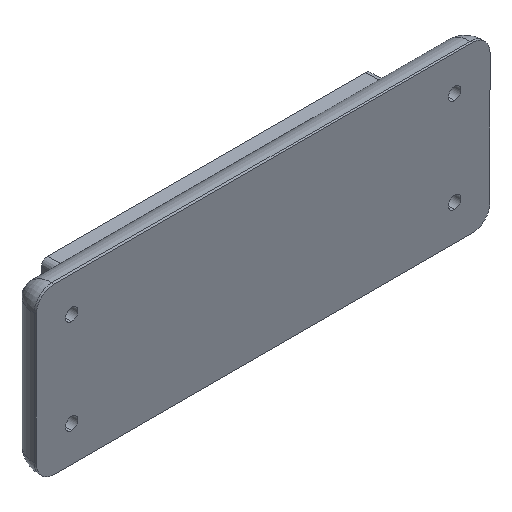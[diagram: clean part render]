
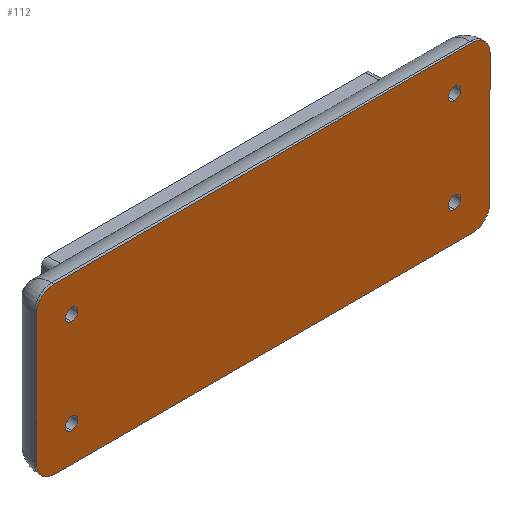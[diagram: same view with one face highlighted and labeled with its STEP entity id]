
A CAD part, isometric view. The second image highlights one B-rep face of the part: STEP entity #112.
In plain terms, the highlighted planar face has unit normal (0, -1, 0).
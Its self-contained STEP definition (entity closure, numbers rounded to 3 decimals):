
#8 = CARTESIAN_POINT ( 'NONE',  ( 65., -1.75, 18.1 ) ) ;
#12 = EDGE_CURVE ( 'NONE', #74, #975, #1131, .T. ) ;
#17 = EDGE_CURVE ( 'NONE', #667, #337, #895, .T. ) ;
#21 = CARTESIAN_POINT ( 'NONE',  ( 71., -1.75, 22. ) ) ;
#24 = CARTESIAN_POINT ( 'NONE',  ( 65., -1.75, -18.1 ) ) ;
#40 = VECTOR ( 'NONE', #328, 1000. ) ;
#44 = CIRCLE ( 'NONE', #551, 2.1 ) ;
#57 = ORIENTED_EDGE ( 'NONE', *, *, #1347, .F. ) ;
#59 = DIRECTION ( 'NONE',  ( 0., -1., 0. ) ) ;
#73 = AXIS2_PLACEMENT_3D ( 'NONE', #258, #316, #357 ) ;
#74 = VERTEX_POINT ( 'NONE', #24 ) ;
#88 = VERTEX_POINT ( 'NONE', #8 ) ;
#98 = VERTEX_POINT ( 'NONE', #1248 ) ;
#109 = AXIS2_PLACEMENT_3D ( 'NONE', #962, #641, #482 ) ;
#112 = ADVANCED_FACE ( 'NONE', ( #521, #937, #1355, #180, #1124 ), #604, .F. ) ;
#119 = EDGE_CURVE ( 'NONE', #543, #827, #1036, .T. ) ;
#128 = CARTESIAN_POINT ( 'NONE',  ( 65., -1.75, 16. ) ) ;
#131 = DIRECTION ( 'NONE',  ( 0., -1., 0. ) ) ;
#137 = DIRECTION ( 'NONE',  ( 0., 0., -1. ) ) ;
#146 = CARTESIAN_POINT ( 'NONE',  ( 71., -1.75, 26. ) ) ;
#156 = ORIENTED_EDGE ( 'NONE', *, *, #17, .F. ) ;
#161 = AXIS2_PLACEMENT_3D ( 'NONE', #1121, #1290, #251 ) ;
#180 = FACE_BOUND ( 'NONE', #387, .T. ) ;
#186 = CARTESIAN_POINT ( 'NONE',  ( -77., -1.75, -22. ) ) ;
#198 = AXIS2_PLACEMENT_3D ( 'NONE', #1080, #831, #1066 ) ;
#206 = VERTEX_POINT ( 'NONE', #475 ) ;
#208 = EDGE_CURVE ( 'NONE', #639, #206, #847, .T. ) ;
#209 = DIRECTION ( 'NONE',  ( 0., 0., -1. ) ) ;
#210 = LINE ( 'NONE', #1236, #270 ) ;
#212 = CARTESIAN_POINT ( 'NONE',  ( -65., -1.75, -18.1 ) ) ;
#221 = EDGE_CURVE ( 'NONE', #337, #667, #516, .T. ) ;
#234 = VERTEX_POINT ( 'NONE', #1264 ) ;
#246 = VERTEX_POINT ( 'NONE', #903 ) ;
#251 = DIRECTION ( 'NONE',  ( 0., 0., -1. ) ) ;
#255 = AXIS2_PLACEMENT_3D ( 'NONE', #128, #1058, #1302 ) ;
#257 = DIRECTION ( 'NONE',  ( 0., 1., 0. ) ) ;
#258 = CARTESIAN_POINT ( 'NONE',  ( -71., -1.75, 22. ) ) ;
#260 = CARTESIAN_POINT ( 'NONE',  ( -71., -1.75, -22. ) ) ;
#270 = VECTOR ( 'NONE', #600, 1000. ) ;
#281 = EDGE_LOOP ( 'NONE', ( #1241, #719 ) ) ;
#288 = CARTESIAN_POINT ( 'NONE',  ( -65., -1.75, 16. ) ) ;
#294 = DIRECTION ( 'NONE',  ( 0., -1., 0. ) ) ;
#302 = CARTESIAN_POINT ( 'NONE',  ( -71., -1.75, -28. ) ) ;
#316 = DIRECTION ( 'NONE',  ( 0., -1., 0. ) ) ;
#328 = DIRECTION ( 'NONE',  ( 0., 0., 1. ) ) ;
#329 = CARTESIAN_POINT ( 'NONE',  ( 71., -1.75, 28. ) ) ;
#337 = VERTEX_POINT ( 'NONE', #1078 ) ;
#357 = DIRECTION ( 'NONE',  ( 0., 0., -1. ) ) ;
#364 = ORIENTED_EDGE ( 'NONE', *, *, #728, .T. ) ;
#387 = EDGE_LOOP ( 'NONE', ( #156, #851 ) ) ;
#391 = CARTESIAN_POINT ( 'NONE',  ( 65., -1.75, -13.9 ) ) ;
#398 = EDGE_CURVE ( 'NONE', #88, #98, #1312, .T. ) ;
#405 = DIRECTION ( 'NONE',  ( 1., 0., 0. ) ) ;
#416 = DIRECTION ( 'NONE',  ( -1., 0., 0. ) ) ;
#428 = EDGE_LOOP ( 'NONE', ( #931, #549, #1108, #364, #484, #1014, #1089, #764 ) ) ;
#441 = LINE ( 'NONE', #302, #1360 ) ;
#454 = CIRCLE ( 'NONE', #161, 2.1 ) ;
#471 = EDGE_LOOP ( 'NONE', ( #663, #57 ) ) ;
#472 = CARTESIAN_POINT ( 'NONE',  ( -65., -1.75, 16. ) ) ;
#475 = CARTESIAN_POINT ( 'NONE',  ( 77., -1.75, 22. ) ) ;
#482 = DIRECTION ( 'NONE',  ( 0., 0., -1. ) ) ;
#484 = ORIENTED_EDGE ( 'NONE', *, *, #119, .T. ) ;
#491 = EDGE_CURVE ( 'NONE', #827, #1256, #441, .T. ) ;
#498 = EDGE_CURVE ( 'NONE', #975, #74, #44, .T. ) ;
#516 = CIRCLE ( 'NONE', #530, 2.1 ) ;
#521 = FACE_BOUND ( 'NONE', #281, .T. ) ;
#522 = DIRECTION ( 'NONE',  ( 0., 0., -1. ) ) ;
#530 = AXIS2_PLACEMENT_3D ( 'NONE', #577, #1295, #1324 ) ;
#543 = VERTEX_POINT ( 'NONE', #186 ) ;
#549 = ORIENTED_EDGE ( 'NONE', *, *, #750, .T. ) ;
#551 = AXIS2_PLACEMENT_3D ( 'NONE', #1329, #294, #522 ) ;
#577 = CARTESIAN_POINT ( 'NONE',  ( -65., -1.75, -16. ) ) ;
#588 = CIRCLE ( 'NONE', #73, 6. ) ;
#595 = CARTESIAN_POINT ( 'NONE',  ( -71., -1.75, -28. ) ) ;
#600 = DIRECTION ( 'NONE',  ( 0., 0., -1. ) ) ;
#604 = PLANE ( 'NONE',  #941 ) ;
#628 = EDGE_CURVE ( 'NONE', #234, #646, #588, .T. ) ;
#639 = VERTEX_POINT ( 'NONE', #644 ) ;
#641 = DIRECTION ( 'NONE',  ( 0., -1., 0. ) ) ;
#644 = CARTESIAN_POINT ( 'NONE',  ( 77., -1.75, -22. ) ) ;
#646 = VERTEX_POINT ( 'NONE', #1315 ) ;
#650 = CIRCLE ( 'NONE', #1344, 2.1 ) ;
#663 = ORIENTED_EDGE ( 'NONE', *, *, #1354, .F. ) ;
#667 = VERTEX_POINT ( 'NONE', #212 ) ;
#693 = VECTOR ( 'NONE', #416, 1000. ) ;
#719 = ORIENTED_EDGE ( 'NONE', *, *, #498, .F. ) ;
#728 = EDGE_CURVE ( 'NONE', #646, #543, #210, .T. ) ;
#750 = EDGE_CURVE ( 'NONE', #753, #234, #846, .T. ) ;
#753 = VERTEX_POINT ( 'NONE', #329 ) ;
#761 = CIRCLE ( 'NONE', #946, 2.1 ) ;
#764 = ORIENTED_EDGE ( 'NONE', *, *, #208, .T. ) ;
#792 = EDGE_CURVE ( 'NONE', #206, #753, #862, .T. ) ;
#798 = EDGE_CURVE ( 'NONE', #1256, #639, #1169, .T. ) ;
#814 = DIRECTION ( 'NONE',  ( 0., -1., 0. ) ) ;
#820 = DIRECTION ( 'NONE',  ( 0., 0., 1. ) ) ;
#827 = VERTEX_POINT ( 'NONE', #595 ) ;
#831 = DIRECTION ( 'NONE',  ( 0., -1., 0. ) ) ;
#846 = LINE ( 'NONE', #956, #693 ) ;
#847 = LINE ( 'NONE', #917, #40 ) ;
#851 = ORIENTED_EDGE ( 'NONE', *, *, #221, .F. ) ;
#862 = CIRCLE ( 'NONE', #1267, 6. ) ;
#895 = CIRCLE ( 'NONE', #1342, 2.1 ) ;
#903 = CARTESIAN_POINT ( 'NONE',  ( -65., -1.75, 18.1 ) ) ;
#917 = CARTESIAN_POINT ( 'NONE',  ( 77., -1.75, -22. ) ) ;
#931 = ORIENTED_EDGE ( 'NONE', *, *, #792, .T. ) ;
#937 = FACE_BOUND ( 'NONE', #1052, .T. ) ;
#941 = AXIS2_PLACEMENT_3D ( 'NONE', #146, #257, #820 ) ;
#946 = AXIS2_PLACEMENT_3D ( 'NONE', #472, #814, #1176 ) ;
#949 = ORIENTED_EDGE ( 'NONE', *, *, #398, .F. ) ;
#956 = CARTESIAN_POINT ( 'NONE',  ( 71., -1.75, 28. ) ) ;
#962 = CARTESIAN_POINT ( 'NONE',  ( 71., -1.75, -22. ) ) ;
#975 = VERTEX_POINT ( 'NONE', #391 ) ;
#1014 = ORIENTED_EDGE ( 'NONE', *, *, #491, .T. ) ;
#1024 = AXIS2_PLACEMENT_3D ( 'NONE', #260, #131, #137 ) ;
#1036 = CIRCLE ( 'NONE', #1024, 6. ) ;
#1045 = VERTEX_POINT ( 'NONE', #1105 ) ;
#1052 = EDGE_LOOP ( 'NONE', ( #1284, #949 ) ) ;
#1058 = DIRECTION ( 'NONE',  ( 0., -1., 0. ) ) ;
#1066 = DIRECTION ( 'NONE',  ( 0., 0., -1. ) ) ;
#1078 = CARTESIAN_POINT ( 'NONE',  ( -65., -1.75, -13.9 ) ) ;
#1080 = CARTESIAN_POINT ( 'NONE',  ( 65., -1.75, -16. ) ) ;
#1089 = ORIENTED_EDGE ( 'NONE', *, *, #798, .T. ) ;
#1093 = EDGE_CURVE ( 'NONE', #98, #88, #454, .T. ) ;
#1094 = DIRECTION ( 'NONE',  ( 0., 0., -1. ) ) ;
#1105 = CARTESIAN_POINT ( 'NONE',  ( -65., -1.75, 13.9 ) ) ;
#1108 = ORIENTED_EDGE ( 'NONE', *, *, #628, .T. ) ;
#1121 = CARTESIAN_POINT ( 'NONE',  ( 65., -1.75, 16. ) ) ;
#1124 = FACE_OUTER_BOUND ( 'NONE', #428, .T. ) ;
#1131 = CIRCLE ( 'NONE', #198, 2.1 ) ;
#1167 = DIRECTION ( 'NONE',  ( 0., -1., 0. ) ) ;
#1169 = CIRCLE ( 'NONE', #109, 6. ) ;
#1176 = DIRECTION ( 'NONE',  ( 0., 0., -1. ) ) ;
#1202 = DIRECTION ( 'NONE',  ( 0., 0., -1. ) ) ;
#1236 = CARTESIAN_POINT ( 'NONE',  ( -77., -1.75, 22. ) ) ;
#1241 = ORIENTED_EDGE ( 'NONE', *, *, #12, .F. ) ;
#1248 = CARTESIAN_POINT ( 'NONE',  ( 65., -1.75, 13.9 ) ) ;
#1256 = VERTEX_POINT ( 'NONE', #1260 ) ;
#1260 = CARTESIAN_POINT ( 'NONE',  ( 71., -1.75, -28. ) ) ;
#1264 = CARTESIAN_POINT ( 'NONE',  ( -71., -1.75, 28. ) ) ;
#1267 = AXIS2_PLACEMENT_3D ( 'NONE', #21, #59, #1094 ) ;
#1284 = ORIENTED_EDGE ( 'NONE', *, *, #1093, .F. ) ;
#1290 = DIRECTION ( 'NONE',  ( 0., -1., 0. ) ) ;
#1295 = DIRECTION ( 'NONE',  ( 0., -1., 0. ) ) ;
#1302 = DIRECTION ( 'NONE',  ( 0., 0., -1. ) ) ;
#1312 = CIRCLE ( 'NONE', #255, 2.1 ) ;
#1314 = DIRECTION ( 'NONE',  ( 0., -1., 0. ) ) ;
#1315 = CARTESIAN_POINT ( 'NONE',  ( -77., -1.75, 22. ) ) ;
#1324 = DIRECTION ( 'NONE',  ( 0., 0., -1. ) ) ;
#1329 = CARTESIAN_POINT ( 'NONE',  ( 65., -1.75, -16. ) ) ;
#1342 = AXIS2_PLACEMENT_3D ( 'NONE', #1358, #1167, #209 ) ;
#1344 = AXIS2_PLACEMENT_3D ( 'NONE', #288, #1314, #1202 ) ;
#1347 = EDGE_CURVE ( 'NONE', #246, #1045, #761, .T. ) ;
#1354 = EDGE_CURVE ( 'NONE', #1045, #246, #650, .T. ) ;
#1355 = FACE_BOUND ( 'NONE', #471, .T. ) ;
#1358 = CARTESIAN_POINT ( 'NONE',  ( -65., -1.75, -16. ) ) ;
#1360 = VECTOR ( 'NONE', #405, 1000. ) ;
